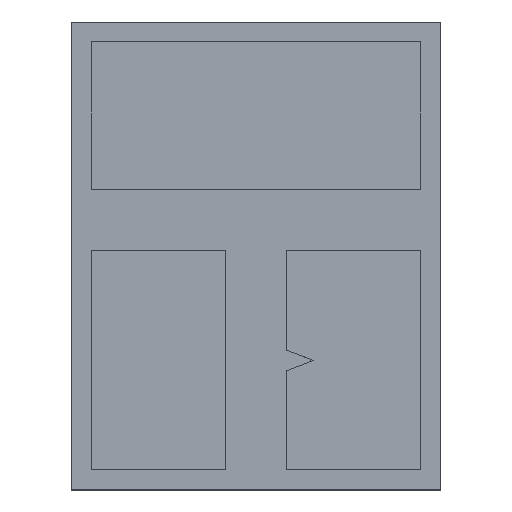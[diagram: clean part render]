
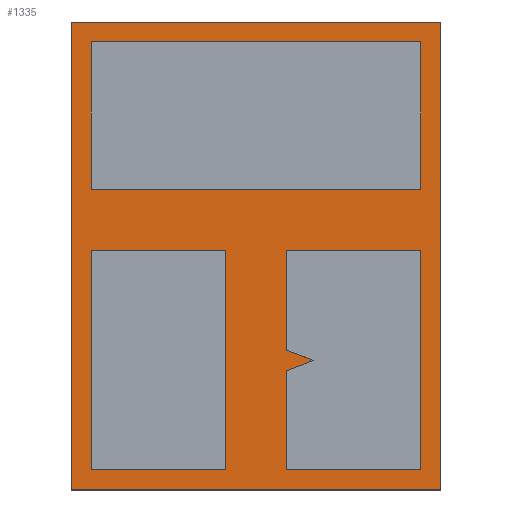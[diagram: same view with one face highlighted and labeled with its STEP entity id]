
A CAD part, top view. The second image highlights one B-rep face of the part: STEP entity #1335.
In plain terms, the highlighted planar face has unit normal (0, 0, 1).
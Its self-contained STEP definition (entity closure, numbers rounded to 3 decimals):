
#56 = CARTESIAN_POINT ( 'NONE',  ( -0.189, 1.307, -0.548 ) ) ;
#126 = EDGE_LOOP ( 'NONE', ( #2617, #447 ) ) ;
#148 = DIRECTION ( 'NONE',  ( 1., 0., 0. ) ) ;
#157 = DIRECTION ( 'NONE',  ( 0., 0., -1. ) ) ;
#178 = VERTEX_POINT ( 'NONE', #2114 ) ;
#224 = FACE_BOUND ( 'NONE', #2233, .T. ) ;
#236 = FACE_OUTER_BOUND ( 'NONE', #1158, .T. ) ;
#245 = DIRECTION ( 'NONE',  ( 1., 0., 0. ) ) ;
#250 = CIRCLE ( 'NONE', #737, 0.035 ) ;
#294 = CARTESIAN_POINT ( 'NONE',  ( 0.311, 1.307, -0.548 ) ) ;
#359 = CARTESIAN_POINT ( 'NONE',  ( -0.154, 1.307, -0.548 ) ) ;
#363 = VECTOR ( 'NONE', #148, 1000. ) ;
#387 = EDGE_CURVE ( 'NONE', #2273, #2105, #2767, .T. ) ;
#388 = VERTEX_POINT ( 'NONE', #2530 ) ;
#428 = CARTESIAN_POINT ( 'NONE',  ( 0.346, 1.095, -0.548 ) ) ;
#447 = ORIENTED_EDGE ( 'NONE', *, *, #720, .T. ) ;
#475 = DIRECTION ( 'NONE',  ( 0., 0., -1. ) ) ;
#479 = CARTESIAN_POINT ( 'NONE',  ( -0.189, 1.307, -0.548 ) ) ;
#567 = CARTESIAN_POINT ( 'NONE',  ( 0.276, 1.307, -0.548 ) ) ;
#572 = VERTEX_POINT ( 'NONE', #1174 ) ;
#584 = AXIS2_PLACEMENT_3D ( 'NONE', #721, #2088, #1439 ) ;
#619 = DIRECTION ( 'NONE',  ( 0., 0., -1. ) ) ;
#643 = EDGE_CURVE ( 'NONE', #572, #2726, #1298, .T. ) ;
#682 = AXIS2_PLACEMENT_3D ( 'NONE', #294, #1003, #2865 ) ;
#719 = DIRECTION ( 'NONE',  ( 0., 0., -1. ) ) ;
#720 = EDGE_CURVE ( 'NONE', #388, #864, #1379, .T. ) ;
#721 = CARTESIAN_POINT ( 'NONE',  ( 0.061, 1.752, -0.548 ) ) ;
#737 = AXIS2_PLACEMENT_3D ( 'NONE', #2721, #619, #1528 ) ;
#752 = AXIS2_PLACEMENT_3D ( 'NONE', #1945, #1464, #2152 ) ;
#805 = CARTESIAN_POINT ( 'NONE',  ( 0.346, 1.307, -0.548 ) ) ;
#864 = VERTEX_POINT ( 'NONE', #2864 ) ;
#875 = EDGE_LOOP ( 'NONE', ( #2710, #1058 ) ) ;
#893 = EDGE_CURVE ( 'NONE', #1504, #2100, #1953, .T. ) ;
#922 = ORIENTED_EDGE ( 'NONE', *, *, #1449, .T. ) ;
#930 = PLANE ( 'NONE',  #584 ) ;
#964 = CARTESIAN_POINT ( 'NONE',  ( -0.689, 2.702, -0.548 ) ) ;
#976 = ORIENTED_EDGE ( 'NONE', *, *, #2525, .T. ) ;
#983 = CIRCLE ( 'NONE', #1123, 0.035 ) ;
#987 = CIRCLE ( 'NONE', #1368, 0.035 ) ;
#1003 = DIRECTION ( 'NONE',  ( 0., 0., -1. ) ) ;
#1058 = ORIENTED_EDGE ( 'NONE', *, *, #2445, .T. ) ;
#1086 = CIRCLE ( 'NONE', #2795, 0.035 ) ;
#1102 = CARTESIAN_POINT ( 'NONE',  ( -0.689, 0.802, -0.548 ) ) ;
#1123 = AXIS2_PLACEMENT_3D ( 'NONE', #1587, #157, #2302 ) ;
#1158 = EDGE_LOOP ( 'NONE', ( #2801, #2054, #976, #1214 ) ) ;
#1172 = FACE_BOUND ( 'NONE', #126, .T. ) ;
#1174 = CARTESIAN_POINT ( 'NONE',  ( -0.224, 1.307, -0.548 ) ) ;
#1214 = ORIENTED_EDGE ( 'NONE', *, *, #387, .T. ) ;
#1217 = DIRECTION ( 'NONE',  ( 1., 0., 0. ) ) ;
#1221 = DIRECTION ( 'NONE',  ( 1., 0., 0. ) ) ;
#1298 = CIRCLE ( 'NONE', #1878, 0.035 ) ;
#1335 = ADVANCED_FACE ( 'NONE', ( #1172, #2124, #2334, #224, #236 ), #930, .T. ) ;
#1366 = ORIENTED_EDGE ( 'NONE', *, *, #2191, .T. ) ;
#1368 = AXIS2_PLACEMENT_3D ( 'NONE', #2524, #1700, #245 ) ;
#1379 = CIRCLE ( 'NONE', #752, 0.035 ) ;
#1439 = DIRECTION ( 'NONE',  ( 1., 0., 0. ) ) ;
#1449 = EDGE_CURVE ( 'NONE', #2726, #572, #1468, .T. ) ;
#1464 = DIRECTION ( 'NONE',  ( 0., 0., -1. ) ) ;
#1468 = CIRCLE ( 'NONE', #1810, 0.035 ) ;
#1500 = VECTOR ( 'NONE', #1973, 1000. ) ;
#1504 = VERTEX_POINT ( 'NONE', #2693 ) ;
#1528 = DIRECTION ( 'NONE',  ( 1., 0., 0. ) ) ;
#1530 = VERTEX_POINT ( 'NONE', #805 ) ;
#1587 = CARTESIAN_POINT ( 'NONE',  ( -0.189, 1.095, -0.548 ) ) ;
#1633 = VERTEX_POINT ( 'NONE', #428 ) ;
#1691 = LINE ( 'NONE', #1707, #1967 ) ;
#1700 = DIRECTION ( 'NONE',  ( 0., 0., -1. ) ) ;
#1707 = CARTESIAN_POINT ( 'NONE',  ( -0.689, 2.702, -0.548 ) ) ;
#1754 = CARTESIAN_POINT ( 'NONE',  ( -0.689, 2.702, -0.548 ) ) ;
#1776 = EDGE_CURVE ( 'NONE', #2105, #1504, #2236, .T. ) ;
#1810 = AXIS2_PLACEMENT_3D ( 'NONE', #479, #719, #1221 ) ;
#1850 = EDGE_CURVE ( 'NONE', #864, #388, #983, .T. ) ;
#1864 = CIRCLE ( 'NONE', #682, 0.035 ) ;
#1878 = AXIS2_PLACEMENT_3D ( 'NONE', #56, #475, #1217 ) ;
#1884 = CARTESIAN_POINT ( 'NONE',  ( -0.689, 0.802, -0.548 ) ) ;
#1945 = CARTESIAN_POINT ( 'NONE',  ( -0.189, 1.095, -0.548 ) ) ;
#1953 = LINE ( 'NONE', #1754, #1500 ) ;
#1967 = VECTOR ( 'NONE', #2835, 1000. ) ;
#1973 = DIRECTION ( 'NONE',  ( -1., 0., 0. ) ) ;
#2036 = CARTESIAN_POINT ( 'NONE',  ( 0.811, 2.702, -0.548 ) ) ;
#2054 = ORIENTED_EDGE ( 'NONE', *, *, #893, .T. ) ;
#2088 = DIRECTION ( 'NONE',  ( 0., 0., 1. ) ) ;
#2094 = ORIENTED_EDGE ( 'NONE', *, *, #2213, .T. ) ;
#2100 = VERTEX_POINT ( 'NONE', #964 ) ;
#2103 = CARTESIAN_POINT ( 'NONE',  ( 0.811, 0.802, -0.548 ) ) ;
#2105 = VERTEX_POINT ( 'NONE', #2103 ) ;
#2114 = CARTESIAN_POINT ( 'NONE',  ( 0.276, 1.095, -0.548 ) ) ;
#2124 = FACE_BOUND ( 'NONE', #2134, .T. ) ;
#2134 = EDGE_LOOP ( 'NONE', ( #1366, #2094 ) ) ;
#2152 = DIRECTION ( 'NONE',  ( 1., 0., 0. ) ) ;
#2191 = EDGE_CURVE ( 'NONE', #1633, #178, #250, .T. ) ;
#2206 = VECTOR ( 'NONE', #2918, 1000. ) ;
#2213 = EDGE_CURVE ( 'NONE', #178, #1633, #987, .T. ) ;
#2233 = EDGE_LOOP ( 'NONE', ( #922, #2559 ) ) ;
#2236 = LINE ( 'NONE', #2036, #2206 ) ;
#2273 = VERTEX_POINT ( 'NONE', #1884 ) ;
#2302 = DIRECTION ( 'NONE',  ( 1., 0., 0. ) ) ;
#2319 = EDGE_CURVE ( 'NONE', #1530, #2531, #1864, .T. ) ;
#2334 = FACE_BOUND ( 'NONE', #875, .T. ) ;
#2388 = DIRECTION ( 'NONE',  ( 1., 0., 0. ) ) ;
#2445 = EDGE_CURVE ( 'NONE', #2531, #1530, #1086, .T. ) ;
#2524 = CARTESIAN_POINT ( 'NONE',  ( 0.311, 1.095, -0.548 ) ) ;
#2525 = EDGE_CURVE ( 'NONE', #2100, #2273, #1691, .T. ) ;
#2530 = CARTESIAN_POINT ( 'NONE',  ( -0.224, 1.095, -0.548 ) ) ;
#2531 = VERTEX_POINT ( 'NONE', #567 ) ;
#2559 = ORIENTED_EDGE ( 'NONE', *, *, #643, .T. ) ;
#2613 = CARTESIAN_POINT ( 'NONE',  ( 0.311, 1.307, -0.548 ) ) ;
#2617 = ORIENTED_EDGE ( 'NONE', *, *, #1850, .T. ) ;
#2645 = DIRECTION ( 'NONE',  ( 0., 0., -1. ) ) ;
#2693 = CARTESIAN_POINT ( 'NONE',  ( 0.811, 2.702, -0.548 ) ) ;
#2710 = ORIENTED_EDGE ( 'NONE', *, *, #2319, .T. ) ;
#2721 = CARTESIAN_POINT ( 'NONE',  ( 0.311, 1.095, -0.548 ) ) ;
#2726 = VERTEX_POINT ( 'NONE', #359 ) ;
#2767 = LINE ( 'NONE', #1102, #363 ) ;
#2795 = AXIS2_PLACEMENT_3D ( 'NONE', #2613, #2645, #2388 ) ;
#2801 = ORIENTED_EDGE ( 'NONE', *, *, #1776, .T. ) ;
#2835 = DIRECTION ( 'NONE',  ( 0., -1., 0. ) ) ;
#2864 = CARTESIAN_POINT ( 'NONE',  ( -0.154, 1.095, -0.548 ) ) ;
#2865 = DIRECTION ( 'NONE',  ( 1., 0., 0. ) ) ;
#2918 = DIRECTION ( 'NONE',  ( 0., 1., 0. ) ) ;
